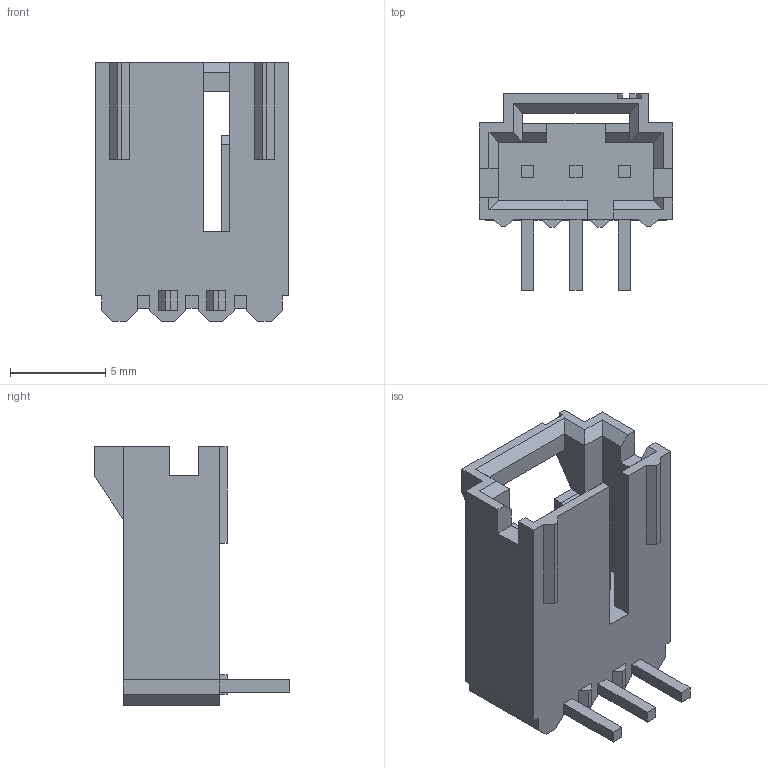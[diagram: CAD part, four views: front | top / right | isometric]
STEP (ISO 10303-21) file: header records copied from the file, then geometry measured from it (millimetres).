
FILE_DESCRIPTION (( 'STEP AP214' ), '1' );
FILE_NAME ('103906-2.step', '2011-05-17T08:42:59', ( 'vpeshkov' ), ( 'licard' ), 'SwSTEP 2.0', 'SolidWorks 2009', '' );
FILE_SCHEMA (( 'AUTOMOTIVE_DESIGN' ));
Length unit declared in the file: millimetre
Products named in the file (1): 103906-2
Bounding box: 10.16 x 10.29 x 13.59 mm (x, y, z)
Volume: 432.2 mm3; surface area: 795.1 mm2
Topology: 1 solids, 1 shells, 129 faces, 353 edges, 229 vertices
Faces by surface type: plane 126, cylinder 3
Entity records: 4382 total; most frequent: CARTESIAN_POINT 712, ORIENTED_EDGE 706, DIRECTION 619, EDGE_CURVE 353, VECTOR 347, LINE 347, VERTEX_POINT 229, AXIS2_PLACEMENT_3D 136
